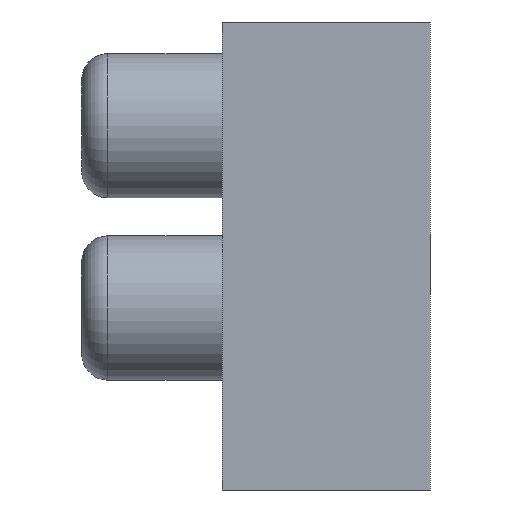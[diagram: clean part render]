
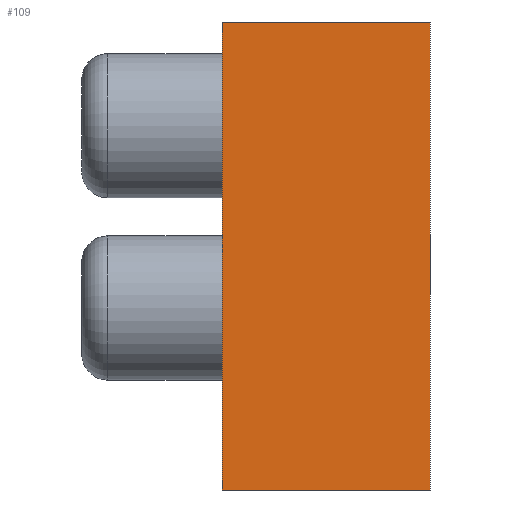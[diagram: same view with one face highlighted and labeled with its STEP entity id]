
A CAD part, left-side view. The second image highlights one B-rep face of the part: STEP entity #109.
In plain terms, the highlighted planar face has unit normal (-1, 0, 0).
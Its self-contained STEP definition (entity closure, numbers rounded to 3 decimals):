
#15 = VERTEX_POINT ( 'NONE', #382 ) ;
#67 = CARTESIAN_POINT ( 'NONE',  ( -21.953, 8., 9.317 ) ) ;
#72 = ORIENTED_EDGE ( 'NONE', *, *, #143, .T. ) ;
#109 = ADVANCED_FACE ( 'NONE', ( #236 ), #175, .F. ) ;
#116 = VERTEX_POINT ( 'NONE', #737 ) ;
#131 = LINE ( 'NONE', #801, #735 ) ;
#134 = VERTEX_POINT ( 'NONE', #67 ) ;
#143 = EDGE_CURVE ( 'NONE', #841, #116, #131, .T. ) ;
#175 = PLANE ( 'NONE',  #422 ) ;
#195 = CARTESIAN_POINT ( 'NONE',  ( -21.953, 8., -8.683 ) ) ;
#197 = EDGE_LOOP ( 'NONE', ( #72, #363, #411, #338 ) ) ;
#226 = LINE ( 'NONE', #381, #767 ) ;
#233 = VECTOR ( 'NONE', #731, 1000. ) ;
#236 = FACE_OUTER_BOUND ( 'NONE', #197, .T. ) ;
#264 = DIRECTION ( 'NONE',  ( 1., 0., 0. ) ) ;
#291 = VECTOR ( 'NONE', #783, 1000. ) ;
#338 = ORIENTED_EDGE ( 'NONE', *, *, #418, .T. ) ;
#363 = ORIENTED_EDGE ( 'NONE', *, *, #796, .F. ) ;
#381 = CARTESIAN_POINT ( 'NONE',  ( -21.953, 8., -8.683 ) ) ;
#382 = CARTESIAN_POINT ( 'NONE',  ( -21.953, 8., -8.683 ) ) ;
#411 = ORIENTED_EDGE ( 'NONE', *, *, #687, .F. ) ;
#418 = EDGE_CURVE ( 'NONE', #15, #841, #725, .T. ) ;
#422 = AXIS2_PLACEMENT_3D ( 'NONE', #577, #264, #881 ) ;
#508 = CARTESIAN_POINT ( 'NONE',  ( -21.953, 8., 9.317 ) ) ;
#577 = CARTESIAN_POINT ( 'NONE',  ( -21.953, 8., -8.683 ) ) ;
#644 = LINE ( 'NONE', #508, #291 ) ;
#687 = EDGE_CURVE ( 'NONE', #15, #134, #226, .T. ) ;
#725 = LINE ( 'NONE', #195, #233 ) ;
#731 = DIRECTION ( 'NONE',  ( 0., -1., 0. ) ) ;
#735 = VECTOR ( 'NONE', #874, 1000. ) ;
#737 = CARTESIAN_POINT ( 'NONE',  ( -21.953, 0., 9.317 ) ) ;
#767 = VECTOR ( 'NONE', #772, 1000. ) ;
#772 = DIRECTION ( 'NONE',  ( 0., 0., 1. ) ) ;
#783 = DIRECTION ( 'NONE',  ( 0., -1., 0. ) ) ;
#796 = EDGE_CURVE ( 'NONE', #134, #116, #644, .T. ) ;
#801 = CARTESIAN_POINT ( 'NONE',  ( -21.953, 0., -8.683 ) ) ;
#841 = VERTEX_POINT ( 'NONE', #873 ) ;
#873 = CARTESIAN_POINT ( 'NONE',  ( -21.953, 0., -8.683 ) ) ;
#874 = DIRECTION ( 'NONE',  ( 0., 0., 1. ) ) ;
#881 = DIRECTION ( 'NONE',  ( 0., 0., -1. ) ) ;
